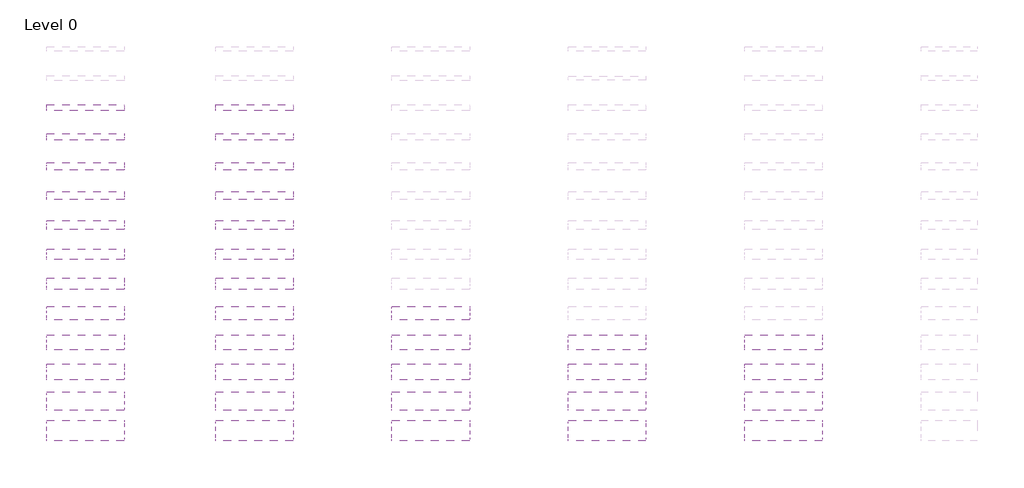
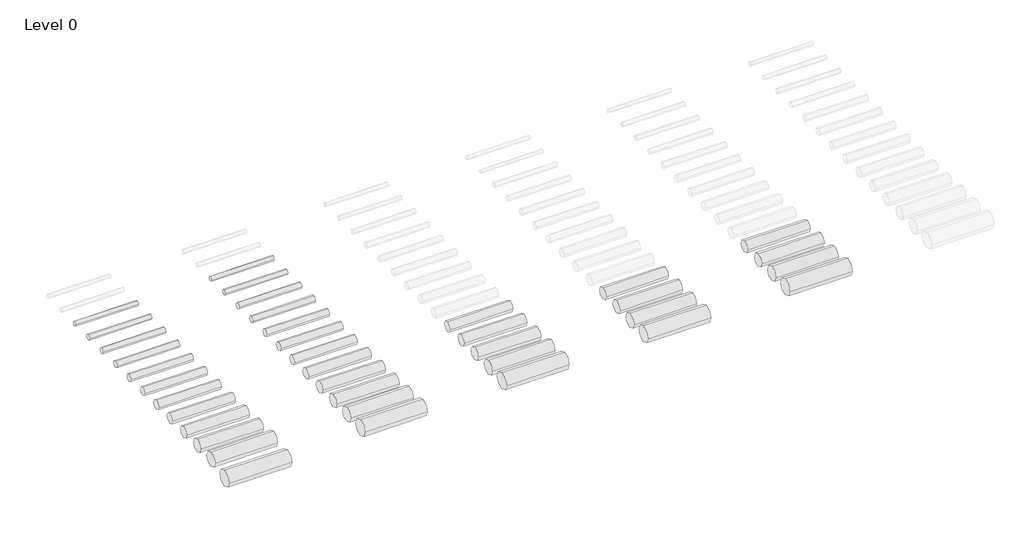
# One storey, part 1 of 4: 37 pipe segments.
"""IFC4 building model written with IfcOpenShell, lengths in millimetres."""

from ifc_helpers import new_model, si_unit, point, frame, frame_2d, origin, place, context, project, spatial, circle_curve, trimmed, segment, composite_curve, outline, extrude, element, save

model = new_model("IFC4")

# Units and contexts
model_context = context("Model", 3, world=origin())
ifc_project = project(units=[si_unit("LENGTHUNIT", "METRE", prefix="MILLI")], contexts=[model_context])

# Site, building, storey
site = spatial("IfcSite", under=ifc_project)
building = spatial("IfcBuilding", under=site)
storey = spatial("IfcBuildingStorey", under=building, Name="Level 0", Elevation=0.0)

# Pipe segments
placement = place(None, origin())
element("IfcPipeSegment", 1, ObjectType="Plumbing_Pipes_Pexgol_Cross-Linked-Polyethylene_Class-10", at=placement, inside=storey, context=model_context, shape_type="SweptSolid", body=[
    extrude(outline(composite_curve([segment(trimmed(circle_curve(frame_2d((-16091.7457436, 2750.0)), 100.0), [point((-16191.7457436, 2750.0))], [point((-16091.7457436, 2850.0))], False, "CARTESIAN"), True, "CONTINUOUS"), segment(trimmed(circle_curve(frame_2d((-16091.7457436, 2750.0)), 100.0), [point((-16091.7457436, 2850.0))], [point((-15991.7457436, 2750.0))], False, "CARTESIAN"), True, "CONTINUOUS"), segment(trimmed(circle_curve(frame_2d((-16091.7457436, 2750.0)), 100.0), [point((-15991.7457436, 2750.0))], [point((-16091.7457436, 2650.0))], False, "CARTESIAN"), True, "CONTINUOUS"), segment(trimmed(circle_curve(frame_2d((-16091.7457436, 2750.0)), 100.0), [point((-16091.7457436, 2650.0))], [point((-16191.7457436, 2750.0))], False, "CARTESIAN"), True, "CONTINUOUS")], self_intersect=False)), frame((5406.3346274, 0.0, 0.0), z_axis=(1.0, 0.0, 0.0), x_axis=(0.0, 1.0, 0.0)), (0.0, 0.0, 1.0), 2640.0),
])
element("IfcPipeSegment", 2, ObjectType="Plumbing_Pipes_Pexgol_Cross-Linked-Polyethylene_Class-10", at=placement, inside=storey, context=model_context, shape_type="SweptSolid", body=[
    extrude(outline(composite_curve([segment(trimmed(circle_curve(frame_2d((-17091.7457436, 2750.0)), 112.5), [point((-17204.2457436, 2750.0))], [point((-17091.7457436, 2862.5))], False, "CARTESIAN"), True, "CONTINUOUS"), segment(trimmed(circle_curve(frame_2d((-17091.7457436, 2750.0)), 112.5), [point((-17091.7457436, 2862.5))], [point((-16979.2457436, 2750.0))], False, "CARTESIAN"), True, "CONTINUOUS"), segment(trimmed(circle_curve(frame_2d((-17091.7457436, 2750.0)), 112.5), [point((-16979.2457436, 2750.0))], [point((-17091.7457436, 2637.5))], False, "CARTESIAN"), True, "CONTINUOUS"), segment(trimmed(circle_curve(frame_2d((-17091.7457436, 2750.0)), 112.5), [point((-17091.7457436, 2637.5))], [point((-17204.2457436, 2750.0))], False, "CARTESIAN"), True, "CONTINUOUS")], self_intersect=False)), frame((5406.3346274, 0.0, 0.0), z_axis=(1.0, 0.0, 0.0), x_axis=(0.0, 1.0, 0.0)), (0.0, 0.0, 1.0), 2640.0),
])
element("IfcPipeSegment", 3, ObjectType="Plumbing_Pipes_Pexgol_Cross-Linked-Polyethylene_Class-10", at=placement, inside=storey, context=model_context, shape_type="SweptSolid", body=[
    extrude(outline(composite_curve([segment(trimmed(circle_curve(frame_2d((-18091.7457436, 2750.0)), 125.0), [point((-18216.7457436, 2750.0))], [point((-18091.7457436, 2875.0))], False, "CARTESIAN"), True, "CONTINUOUS"), segment(trimmed(circle_curve(frame_2d((-18091.7457436, 2750.0)), 125.0), [point((-18091.7457436, 2875.0))], [point((-17966.7457436, 2750.0))], False, "CARTESIAN"), True, "CONTINUOUS"), segment(trimmed(circle_curve(frame_2d((-18091.7457436, 2750.0)), 125.0), [point((-17966.7457436, 2750.0))], [point((-18091.7457436, 2625.0))], False, "CARTESIAN"), True, "CONTINUOUS"), segment(trimmed(circle_curve(frame_2d((-18091.7457436, 2750.0)), 125.0), [point((-18091.7457436, 2625.0))], [point((-18216.7457436, 2750.0))], False, "CARTESIAN"), True, "CONTINUOUS")], self_intersect=False)), frame((5406.3346274, 0.0, 0.0), z_axis=(1.0, 0.0, 0.0), x_axis=(0.0, 1.0, 0.0)), (0.0, 0.0, 1.0), 2640.0),
])
element("IfcPipeSegment", 4, ObjectType="Plumbing_Pipes_Pexgol_Cross-Linked-Polyethylene_Class-10", at=placement, inside=storey, context=model_context, shape_type="SweptSolid", body=[
    extrude(outline(composite_curve([segment(trimmed(circle_curve(frame_2d((-19091.7457436, 2750.0)), 140.0), [point((-19231.7457436, 2750.0))], [point((-19091.7457436, 2890.0))], False, "CARTESIAN"), True, "CONTINUOUS"), segment(trimmed(circle_curve(frame_2d((-19091.7457436, 2750.0)), 140.0), [point((-19091.7457436, 2890.0))], [point((-18951.7457436, 2750.0))], False, "CARTESIAN"), True, "CONTINUOUS"), segment(trimmed(circle_curve(frame_2d((-19091.7457436, 2750.0)), 140.0), [point((-18951.7457436, 2750.0))], [point((-19091.7457436, 2610.0))], False, "CARTESIAN"), True, "CONTINUOUS"), segment(trimmed(circle_curve(frame_2d((-19091.7457436, 2750.0)), 140.0), [point((-19091.7457436, 2610.0))], [point((-19231.7457436, 2750.0))], False, "CARTESIAN"), True, "CONTINUOUS")], self_intersect=False)), frame((5406.3346274, 0.0, 0.0), z_axis=(1.0, 0.0, 0.0), x_axis=(0.0, 1.0, 0.0)), (0.0, 0.0, 1.0), 2640.0),
])
element("IfcPipeSegment", 5, ObjectType="Plumbing_Pipes_Pexgol_Cross-Linked-Polyethylene_Class-10", at=placement, inside=storey, context=model_context, shape_type="SweptSolid", body=[
    extrude(outline(composite_curve([segment(trimmed(circle_curve(frame_2d((-20091.7457436, 2750.0)), 157.5), [point((-20249.2457436, 2750.0))], [point((-20091.7457436, 2907.5))], False, "CARTESIAN"), True, "CONTINUOUS"), segment(trimmed(circle_curve(frame_2d((-20091.7457436, 2750.0)), 157.5), [point((-20091.7457436, 2907.5))], [point((-19934.2457436, 2750.0))], False, "CARTESIAN"), True, "CONTINUOUS"), segment(trimmed(circle_curve(frame_2d((-20091.7457436, 2750.0)), 157.5), [point((-19934.2457436, 2750.0))], [point((-20091.7457436, 2592.5))], False, "CARTESIAN"), True, "CONTINUOUS"), segment(trimmed(circle_curve(frame_2d((-20091.7457436, 2750.0)), 157.5), [point((-20091.7457436, 2592.5))], [point((-20249.2457436, 2750.0))], False, "CARTESIAN"), True, "CONTINUOUS")], self_intersect=False)), frame((5406.3346274, 0.0, 0.0), z_axis=(1.0, 0.0, 0.0), x_axis=(0.0, 1.0, 0.0)), (0.0, 0.0, 1.0), 2640.0),
])
element("IfcPipeSegment", 6, ObjectType="Plumbing_Pipes_Pexgol_Cross-Linked-Polyethylene_Class-10", at=placement, inside=storey, context=model_context, shape_type="SweptSolid", body=[
    extrude(outline(composite_curve([segment(trimmed(circle_curve(frame_2d((-21091.7457436, 2750.0)), 177.5), [point((-21269.2457436, 2750.0))], [point((-21091.7457436, 2927.5))], False, "CARTESIAN"), True, "CONTINUOUS"), segment(trimmed(circle_curve(frame_2d((-21091.7457436, 2750.0)), 177.5), [point((-21091.7457436, 2927.5))], [point((-20914.2457436, 2750.0))], False, "CARTESIAN"), True, "CONTINUOUS"), segment(trimmed(circle_curve(frame_2d((-21091.7457436, 2750.0)), 177.5), [point((-20914.2457436, 2750.0))], [point((-21091.7457436, 2572.5))], False, "CARTESIAN"), True, "CONTINUOUS"), segment(trimmed(circle_curve(frame_2d((-21091.7457436, 2750.0)), 177.5), [point((-21091.7457436, 2572.5))], [point((-21269.2457436, 2750.0))], False, "CARTESIAN"), True, "CONTINUOUS")], self_intersect=False)), frame((5406.3346274, 0.0, 0.0), z_axis=(1.0, 0.0, 0.0), x_axis=(0.0, 1.0, 0.0)), (0.0, 0.0, 1.0), 2640.0),
])
element("IfcPipeSegment", 7, ObjectType="Plumbing_Pipes_Pexgol_Cross-Linked-Polyethylene_Class-10", at=placement, inside=storey, context=model_context, shape_type="SweptSolid", body=[
    extrude(outline(composite_curve([segment(trimmed(circle_curve(frame_2d((-22091.7457436, 2750.0)), 200.0), [point((-22291.7457436, 2750.0))], [point((-22091.7457436, 2950.0))], False, "CARTESIAN"), True, "CONTINUOUS"), segment(trimmed(circle_curve(frame_2d((-22091.7457436, 2750.0)), 200.0), [point((-22091.7457436, 2950.0))], [point((-21891.7457436, 2750.0))], False, "CARTESIAN"), True, "CONTINUOUS"), segment(trimmed(circle_curve(frame_2d((-22091.7457436, 2750.0)), 200.0), [point((-21891.7457436, 2750.0))], [point((-22091.7457436, 2550.0))], False, "CARTESIAN"), True, "CONTINUOUS"), segment(trimmed(circle_curve(frame_2d((-22091.7457436, 2750.0)), 200.0), [point((-22091.7457436, 2550.0))], [point((-22291.7457436, 2750.0))], False, "CARTESIAN"), True, "CONTINUOUS")], self_intersect=False)), frame((5406.3346274, 0.0, 0.0), z_axis=(1.0, 0.0, 0.0), x_axis=(0.0, 1.0, 0.0)), (0.0, 0.0, 1.0), 2640.0),
])
element("IfcPipeSegment", 8, ObjectType="Plumbing_Pipes_Pexgol_Cross-Linked-Polyethylene_Class-10", at=placement, inside=storey, context=model_context, shape_type="SweptSolid", body=[
    extrude(outline(composite_curve([segment(trimmed(circle_curve(frame_2d((-23091.7457436, 2750.0)), 225.0), [point((-23316.7457436, 2750.0))], [point((-23091.7457436, 2975.0))], False, "CARTESIAN"), True, "CONTINUOUS"), segment(trimmed(circle_curve(frame_2d((-23091.7457436, 2750.0)), 225.0), [point((-23091.7457436, 2975.0))], [point((-22866.7457436, 2750.0))], False, "CARTESIAN"), True, "CONTINUOUS"), segment(trimmed(circle_curve(frame_2d((-23091.7457436, 2750.0)), 225.0), [point((-22866.7457436, 2750.0))], [point((-23091.7457436, 2525.0))], False, "CARTESIAN"), True, "CONTINUOUS"), segment(trimmed(circle_curve(frame_2d((-23091.7457436, 2750.0)), 225.0), [point((-23091.7457436, 2525.0))], [point((-23316.7457436, 2750.0))], False, "CARTESIAN"), True, "CONTINUOUS")], self_intersect=False)), frame((5406.3346274, 0.0, 0.0), z_axis=(1.0, 0.0, 0.0), x_axis=(0.0, 1.0, 0.0)), (0.0, 0.0, 1.0), 2640.0),
])
element("IfcPipeSegment", 9, ObjectType="Plumbing_Pipes_Pexgol_Cross-Linked-Polyethylene_Class-10", at=placement, inside=storey, context=model_context, shape_type="SweptSolid", body=[
    extrude(outline(composite_curve([segment(trimmed(circle_curve(frame_2d((-24091.7457436, 2750.0)), 250.0), [point((-24341.7457436, 2750.0))], [point((-24091.7457436, 3000.0))], False, "CARTESIAN"), True, "CONTINUOUS"), segment(trimmed(circle_curve(frame_2d((-24091.7457436, 2750.0)), 250.0), [point((-24091.7457436, 3000.0))], [point((-23841.7457436, 2750.0))], False, "CARTESIAN"), True, "CONTINUOUS"), segment(trimmed(circle_curve(frame_2d((-24091.7457436, 2750.0)), 250.0), [point((-23841.7457436, 2750.0))], [point((-24091.7457436, 2500.0))], False, "CARTESIAN"), True, "CONTINUOUS"), segment(trimmed(circle_curve(frame_2d((-24091.7457436, 2750.0)), 250.0), [point((-24091.7457436, 2500.0))], [point((-24341.7457436, 2750.0))], False, "CARTESIAN"), True, "CONTINUOUS")], self_intersect=False)), frame((5406.3346274, 0.0, 0.0), z_axis=(1.0, 0.0, 0.0), x_axis=(0.0, 1.0, 0.0)), (0.0, 0.0, 1.0), 2640.0),
])
element("IfcPipeSegment", 10, ObjectType="Plumbing_Pipes_Pexgol_Cross-Linked-Polyethylene_Class-10", at=placement, inside=storey, context=model_context, shape_type="SweptSolid", body=[
    extrude(outline(composite_curve([segment(trimmed(circle_curve(frame_2d((-25091.7457436, 2750.0)), 280.0), [point((-25371.7457436, 2750.0))], [point((-25091.7457436, 3030.0))], False, "CARTESIAN"), True, "CONTINUOUS"), segment(trimmed(circle_curve(frame_2d((-25091.7457436, 2750.0)), 280.0), [point((-25091.7457436, 3030.0))], [point((-24811.7457436, 2750.0))], False, "CARTESIAN"), True, "CONTINUOUS"), segment(trimmed(circle_curve(frame_2d((-25091.7457436, 2750.0)), 280.0), [point((-24811.7457436, 2750.0))], [point((-25091.7457436, 2470.0))], False, "CARTESIAN"), True, "CONTINUOUS"), segment(trimmed(circle_curve(frame_2d((-25091.7457436, 2750.0)), 280.0), [point((-25091.7457436, 2470.0))], [point((-25371.7457436, 2750.0))], False, "CARTESIAN"), True, "CONTINUOUS")], self_intersect=False)), frame((5406.3346274, 0.0, 0.0), z_axis=(1.0, 0.0, 0.0), x_axis=(0.0, 1.0, 0.0)), (0.0, 0.0, 1.0), 2640.0),
])
element("IfcPipeSegment", 11, ObjectType="Plumbing_Pipes_Pexgol_Cross-Linked-Polyethylene_Class-10", at=placement, inside=storey, context=model_context, shape_type="SweptSolid", body=[
    extrude(outline(composite_curve([segment(trimmed(circle_curve(frame_2d((-26091.7457436, 2750.0)), 315.0), [point((-26406.7457436, 2750.0))], [point((-26091.7457436, 3065.0))], False, "CARTESIAN"), True, "CONTINUOUS"), segment(trimmed(circle_curve(frame_2d((-26091.7457436, 2750.0)), 315.0), [point((-26091.7457436, 3065.0))], [point((-25776.7457436, 2750.0))], False, "CARTESIAN"), True, "CONTINUOUS"), segment(trimmed(circle_curve(frame_2d((-26091.7457436, 2750.0)), 315.0), [point((-25776.7457436, 2750.0))], [point((-26091.7457436, 2435.0))], False, "CARTESIAN"), True, "CONTINUOUS"), segment(trimmed(circle_curve(frame_2d((-26091.7457436, 2750.0)), 315.0), [point((-26091.7457436, 2435.0))], [point((-26406.7457436, 2750.0))], False, "CARTESIAN"), True, "CONTINUOUS")], self_intersect=False)), frame((5406.3346274, 0.0, 0.0), z_axis=(1.0, 0.0, 0.0), x_axis=(0.0, 1.0, 0.0)), (0.0, 0.0, 1.0), 2640.0),
])
element("IfcPipeSegment", 12, ObjectType="Plumbing_Pipes_Pexgol_Cross-Linked-Polyethylene_Class-10", at=placement, inside=storey, context=model_context, shape_type="SweptSolid", body=[
    extrude(outline(composite_curve([segment(trimmed(circle_curve(frame_2d((-27091.7457436, 2498.2929828)), 355.0), [point((-27446.7457436, 2498.2929828))], [point((-27091.7457436, 2853.2929828))], False, "CARTESIAN"), True, "CONTINUOUS"), segment(trimmed(circle_curve(frame_2d((-27091.7457436, 2498.2929828)), 355.0), [point((-27091.7457436, 2853.2929828))], [point((-26736.7457436, 2498.2929828))], False, "CARTESIAN"), True, "CONTINUOUS"), segment(trimmed(circle_curve(frame_2d((-27091.7457436, 2498.2929828)), 355.0), [point((-26736.7457436, 2498.2929828))], [point((-27091.7457436, 2143.2929828))], False, "CARTESIAN"), True, "CONTINUOUS"), segment(trimmed(circle_curve(frame_2d((-27091.7457436, 2498.2929828)), 355.0), [point((-27091.7457436, 2143.2929828))], [point((-27446.7457436, 2498.2929828))], False, "CARTESIAN"), True, "CONTINUOUS")], self_intersect=False)), frame((5406.3346274, 0.0, 0.0), z_axis=(1.0, 0.0, 0.0), x_axis=(0.0, 1.0, 0.0)), (0.0, 0.0, 1.0), 2640.0),
])
element("IfcPipeSegment", 13, ObjectType="Plumbing_Pipes_Pexgol_Cross-Linked-Polyethylene_Class-12", at=placement, inside=storey, context=model_context, shape_type="SweptSolid", body=[
    extrude(outline(composite_curve([segment(trimmed(circle_curve(frame_2d((-16091.7457436, 2750.0)), 100.0), [point((-16191.7457436, 2750.0))], [point((-16091.7457436, 2850.0))], False, "CARTESIAN"), True, "CONTINUOUS"), segment(trimmed(circle_curve(frame_2d((-16091.7457436, 2750.0)), 100.0), [point((-16091.7457436, 2850.0))], [point((-15991.7457436, 2750.0))], False, "CARTESIAN"), True, "CONTINUOUS"), segment(trimmed(circle_curve(frame_2d((-16091.7457436, 2750.0)), 100.0), [point((-15991.7457436, 2750.0))], [point((-16091.7457436, 2650.0))], False, "CARTESIAN"), True, "CONTINUOUS"), segment(trimmed(circle_curve(frame_2d((-16091.7457436, 2750.0)), 100.0), [point((-16091.7457436, 2650.0))], [point((-16191.7457436, 2750.0))], False, "CARTESIAN"), True, "CONTINUOUS")], self_intersect=False)), frame((11158.0416447, 0.0, 0.0), z_axis=(1.0, 0.0, 0.0), x_axis=(0.0, 1.0, 0.0)), (0.0, 0.0, 1.0), 2640.0),
])
element("IfcPipeSegment", 14, ObjectType="Plumbing_Pipes_Pexgol_Cross-Linked-Polyethylene_Class-12", at=placement, inside=storey, context=model_context, shape_type="SweptSolid", body=[
    extrude(outline(composite_curve([segment(trimmed(circle_curve(frame_2d((-17091.7457436, 2750.0)), 112.5), [point((-17204.2457436, 2750.0))], [point((-17091.7457436, 2862.5))], False, "CARTESIAN"), True, "CONTINUOUS"), segment(trimmed(circle_curve(frame_2d((-17091.7457436, 2750.0)), 112.5), [point((-17091.7457436, 2862.5))], [point((-16979.2457436, 2750.0))], False, "CARTESIAN"), True, "CONTINUOUS"), segment(trimmed(circle_curve(frame_2d((-17091.7457436, 2750.0)), 112.5), [point((-16979.2457436, 2750.0))], [point((-17091.7457436, 2637.5))], False, "CARTESIAN"), True, "CONTINUOUS"), segment(trimmed(circle_curve(frame_2d((-17091.7457436, 2750.0)), 112.5), [point((-17091.7457436, 2637.5))], [point((-17204.2457436, 2750.0))], False, "CARTESIAN"), True, "CONTINUOUS")], self_intersect=False)), frame((11158.0416447, 0.0, 0.0), z_axis=(1.0, 0.0, 0.0), x_axis=(0.0, 1.0, 0.0)), (0.0, 0.0, 1.0), 2640.0),
])
element("IfcPipeSegment", 15, ObjectType="Plumbing_Pipes_Pexgol_Cross-Linked-Polyethylene_Class-12", at=placement, inside=storey, context=model_context, shape_type="SweptSolid", body=[
    extrude(outline(composite_curve([segment(trimmed(circle_curve(frame_2d((-18091.7457436, 2750.0)), 125.0), [point((-18216.7457436, 2750.0))], [point((-18091.7457436, 2875.0))], False, "CARTESIAN"), True, "CONTINUOUS"), segment(trimmed(circle_curve(frame_2d((-18091.7457436, 2750.0)), 125.0), [point((-18091.7457436, 2875.0))], [point((-17966.7457436, 2750.0))], False, "CARTESIAN"), True, "CONTINUOUS"), segment(trimmed(circle_curve(frame_2d((-18091.7457436, 2750.0)), 125.0), [point((-17966.7457436, 2750.0))], [point((-18091.7457436, 2625.0))], False, "CARTESIAN"), True, "CONTINUOUS"), segment(trimmed(circle_curve(frame_2d((-18091.7457436, 2750.0)), 125.0), [point((-18091.7457436, 2625.0))], [point((-18216.7457436, 2750.0))], False, "CARTESIAN"), True, "CONTINUOUS")], self_intersect=False)), frame((11158.0416447, 0.0, 0.0), z_axis=(1.0, 0.0, 0.0), x_axis=(0.0, 1.0, 0.0)), (0.0, 0.0, 1.0), 2640.0),
])
element("IfcPipeSegment", 16, ObjectType="Plumbing_Pipes_Pexgol_Cross-Linked-Polyethylene_Class-12", at=placement, inside=storey, context=model_context, shape_type="SweptSolid", body=[
    extrude(outline(composite_curve([segment(trimmed(circle_curve(frame_2d((-19091.7457436, 2750.0)), 140.0), [point((-19231.7457436, 2750.0))], [point((-19091.7457436, 2890.0))], False, "CARTESIAN"), True, "CONTINUOUS"), segment(trimmed(circle_curve(frame_2d((-19091.7457436, 2750.0)), 140.0), [point((-19091.7457436, 2890.0))], [point((-18951.7457436, 2750.0))], False, "CARTESIAN"), True, "CONTINUOUS"), segment(trimmed(circle_curve(frame_2d((-19091.7457436, 2750.0)), 140.0), [point((-18951.7457436, 2750.0))], [point((-19091.7457436, 2610.0))], False, "CARTESIAN"), True, "CONTINUOUS"), segment(trimmed(circle_curve(frame_2d((-19091.7457436, 2750.0)), 140.0), [point((-19091.7457436, 2610.0))], [point((-19231.7457436, 2750.0))], False, "CARTESIAN"), True, "CONTINUOUS")], self_intersect=False)), frame((11158.0416447, 0.0, 0.0), z_axis=(1.0, 0.0, 0.0), x_axis=(0.0, 1.0, 0.0)), (0.0, 0.0, 1.0), 2640.0),
])
element("IfcPipeSegment", 17, ObjectType="Plumbing_Pipes_Pexgol_Cross-Linked-Polyethylene_Class-12", at=placement, inside=storey, context=model_context, shape_type="SweptSolid", body=[
    extrude(outline(composite_curve([segment(trimmed(circle_curve(frame_2d((-20091.7457436, 2750.0)), 157.5), [point((-20249.2457436, 2750.0))], [point((-20091.7457436, 2907.5))], False, "CARTESIAN"), True, "CONTINUOUS"), segment(trimmed(circle_curve(frame_2d((-20091.7457436, 2750.0)), 157.5), [point((-20091.7457436, 2907.5))], [point((-19934.2457436, 2750.0))], False, "CARTESIAN"), True, "CONTINUOUS"), segment(trimmed(circle_curve(frame_2d((-20091.7457436, 2750.0)), 157.5), [point((-19934.2457436, 2750.0))], [point((-20091.7457436, 2592.5))], False, "CARTESIAN"), True, "CONTINUOUS"), segment(trimmed(circle_curve(frame_2d((-20091.7457436, 2750.0)), 157.5), [point((-20091.7457436, 2592.5))], [point((-20249.2457436, 2750.0))], False, "CARTESIAN"), True, "CONTINUOUS")], self_intersect=False)), frame((11158.0416447, 0.0, 0.0), z_axis=(1.0, 0.0, 0.0), x_axis=(0.0, 1.0, 0.0)), (0.0, 0.0, 1.0), 2640.0),
])
element("IfcPipeSegment", 18, ObjectType="Plumbing_Pipes_Pexgol_Cross-Linked-Polyethylene_Class-12", at=placement, inside=storey, context=model_context, shape_type="SweptSolid", body=[
    extrude(outline(composite_curve([segment(trimmed(circle_curve(frame_2d((-21091.7457436, 2750.0)), 177.5), [point((-21269.2457436, 2750.0))], [point((-21091.7457436, 2927.5))], False, "CARTESIAN"), True, "CONTINUOUS"), segment(trimmed(circle_curve(frame_2d((-21091.7457436, 2750.0)), 177.5), [point((-21091.7457436, 2927.5))], [point((-20914.2457436, 2750.0))], False, "CARTESIAN"), True, "CONTINUOUS"), segment(trimmed(circle_curve(frame_2d((-21091.7457436, 2750.0)), 177.5), [point((-20914.2457436, 2750.0))], [point((-21091.7457436, 2572.5))], False, "CARTESIAN"), True, "CONTINUOUS"), segment(trimmed(circle_curve(frame_2d((-21091.7457436, 2750.0)), 177.5), [point((-21091.7457436, 2572.5))], [point((-21269.2457436, 2750.0))], False, "CARTESIAN"), True, "CONTINUOUS")], self_intersect=False)), frame((11158.0416447, 0.0, 0.0), z_axis=(1.0, 0.0, 0.0), x_axis=(0.0, 1.0, 0.0)), (0.0, 0.0, 1.0), 2640.0),
])
element("IfcPipeSegment", 19, ObjectType="Plumbing_Pipes_Pexgol_Cross-Linked-Polyethylene_Class-12", at=placement, inside=storey, context=model_context, shape_type="SweptSolid", body=[
    extrude(outline(composite_curve([segment(trimmed(circle_curve(frame_2d((-22091.7457436, 2750.0)), 200.0), [point((-22291.7457436, 2750.0))], [point((-22091.7457436, 2950.0))], False, "CARTESIAN"), True, "CONTINUOUS"), segment(trimmed(circle_curve(frame_2d((-22091.7457436, 2750.0)), 200.0), [point((-22091.7457436, 2950.0))], [point((-21891.7457436, 2750.0))], False, "CARTESIAN"), True, "CONTINUOUS"), segment(trimmed(circle_curve(frame_2d((-22091.7457436, 2750.0)), 200.0), [point((-21891.7457436, 2750.0))], [point((-22091.7457436, 2550.0))], False, "CARTESIAN"), True, "CONTINUOUS"), segment(trimmed(circle_curve(frame_2d((-22091.7457436, 2750.0)), 200.0), [point((-22091.7457436, 2550.0))], [point((-22291.7457436, 2750.0))], False, "CARTESIAN"), True, "CONTINUOUS")], self_intersect=False)), frame((11158.0416447, 0.0, 0.0), z_axis=(1.0, 0.0, 0.0), x_axis=(0.0, 1.0, 0.0)), (0.0, 0.0, 1.0), 2640.0),
])
element("IfcPipeSegment", 20, ObjectType="Plumbing_Pipes_Pexgol_Cross-Linked-Polyethylene_Class-12", at=placement, inside=storey, context=model_context, shape_type="SweptSolid", body=[
    extrude(outline(composite_curve([segment(trimmed(circle_curve(frame_2d((-23091.7457436, 2750.0)), 225.0), [point((-23316.7457436, 2750.0))], [point((-23091.7457436, 2975.0))], False, "CARTESIAN"), True, "CONTINUOUS"), segment(trimmed(circle_curve(frame_2d((-23091.7457436, 2750.0)), 225.0), [point((-23091.7457436, 2975.0))], [point((-22866.7457436, 2750.0))], False, "CARTESIAN"), True, "CONTINUOUS"), segment(trimmed(circle_curve(frame_2d((-23091.7457436, 2750.0)), 225.0), [point((-22866.7457436, 2750.0))], [point((-23091.7457436, 2525.0))], False, "CARTESIAN"), True, "CONTINUOUS"), segment(trimmed(circle_curve(frame_2d((-23091.7457436, 2750.0)), 225.0), [point((-23091.7457436, 2525.0))], [point((-23316.7457436, 2750.0))], False, "CARTESIAN"), True, "CONTINUOUS")], self_intersect=False)), frame((11158.0416447, 0.0, 0.0), z_axis=(1.0, 0.0, 0.0), x_axis=(0.0, 1.0, 0.0)), (0.0, 0.0, 1.0), 2640.0),
])
element("IfcPipeSegment", 21, ObjectType="Plumbing_Pipes_Pexgol_Cross-Linked-Polyethylene_Class-12", at=placement, inside=storey, context=model_context, shape_type="SweptSolid", body=[
    extrude(outline(composite_curve([segment(trimmed(circle_curve(frame_2d((-24091.7457436, 2750.0)), 250.0), [point((-24341.7457436, 2750.0))], [point((-24091.7457436, 3000.0))], False, "CARTESIAN"), True, "CONTINUOUS"), segment(trimmed(circle_curve(frame_2d((-24091.7457436, 2750.0)), 250.0), [point((-24091.7457436, 3000.0))], [point((-23841.7457436, 2750.0))], False, "CARTESIAN"), True, "CONTINUOUS"), segment(trimmed(circle_curve(frame_2d((-24091.7457436, 2750.0)), 250.0), [point((-23841.7457436, 2750.0))], [point((-24091.7457436, 2500.0))], False, "CARTESIAN"), True, "CONTINUOUS"), segment(trimmed(circle_curve(frame_2d((-24091.7457436, 2750.0)), 250.0), [point((-24091.7457436, 2500.0))], [point((-24341.7457436, 2750.0))], False, "CARTESIAN"), True, "CONTINUOUS")], self_intersect=False)), frame((11158.0416447, 0.0, 0.0), z_axis=(1.0, 0.0, 0.0), x_axis=(0.0, 1.0, 0.0)), (0.0, 0.0, 1.0), 2640.0),
])
element("IfcPipeSegment", 22, ObjectType="Plumbing_Pipes_Pexgol_Cross-Linked-Polyethylene_Class-12", at=placement, inside=storey, context=model_context, shape_type="SweptSolid", body=[
    extrude(outline(composite_curve([segment(trimmed(circle_curve(frame_2d((-25091.7457436, 2750.0)), 280.0), [point((-25371.7457436, 2750.0))], [point((-25091.7457436, 3030.0))], False, "CARTESIAN"), True, "CONTINUOUS"), segment(trimmed(circle_curve(frame_2d((-25091.7457436, 2750.0)), 280.0), [point((-25091.7457436, 3030.0))], [point((-24811.7457436, 2750.0))], False, "CARTESIAN"), True, "CONTINUOUS"), segment(trimmed(circle_curve(frame_2d((-25091.7457436, 2750.0)), 280.0), [point((-24811.7457436, 2750.0))], [point((-25091.7457436, 2470.0))], False, "CARTESIAN"), True, "CONTINUOUS"), segment(trimmed(circle_curve(frame_2d((-25091.7457436, 2750.0)), 280.0), [point((-25091.7457436, 2470.0))], [point((-25371.7457436, 2750.0))], False, "CARTESIAN"), True, "CONTINUOUS")], self_intersect=False)), frame((11158.0416447, 0.0, 0.0), z_axis=(1.0, 0.0, 0.0), x_axis=(0.0, 1.0, 0.0)), (0.0, 0.0, 1.0), 2640.0),
])
element("IfcPipeSegment", 23, ObjectType="Plumbing_Pipes_Pexgol_Cross-Linked-Polyethylene_Class-12", at=placement, inside=storey, context=model_context, shape_type="SweptSolid", body=[
    extrude(outline(composite_curve([segment(trimmed(circle_curve(frame_2d((-26091.7457436, 2750.0)), 315.0), [point((-26406.7457436, 2750.0))], [point((-26091.7457436, 3065.0))], False, "CARTESIAN"), True, "CONTINUOUS"), segment(trimmed(circle_curve(frame_2d((-26091.7457436, 2750.0)), 315.0), [point((-26091.7457436, 3065.0))], [point((-25776.7457436, 2750.0))], False, "CARTESIAN"), True, "CONTINUOUS"), segment(trimmed(circle_curve(frame_2d((-26091.7457436, 2750.0)), 315.0), [point((-25776.7457436, 2750.0))], [point((-26091.7457436, 2435.0))], False, "CARTESIAN"), True, "CONTINUOUS"), segment(trimmed(circle_curve(frame_2d((-26091.7457436, 2750.0)), 315.0), [point((-26091.7457436, 2435.0))], [point((-26406.7457436, 2750.0))], False, "CARTESIAN"), True, "CONTINUOUS")], self_intersect=False)), frame((11158.0416447, 0.0, 0.0), z_axis=(1.0, 0.0, 0.0), x_axis=(0.0, 1.0, 0.0)), (0.0, 0.0, 1.0), 2640.0),
])
element("IfcPipeSegment", 24, ObjectType="Plumbing_Pipes_Pexgol_Cross-Linked-Polyethylene_Class-12", at=placement, inside=storey, context=model_context, shape_type="SweptSolid", body=[
    extrude(outline(composite_curve([segment(trimmed(circle_curve(frame_2d((-27091.7457436, 2750.0)), 355.0), [point((-27446.7457436, 2750.0))], [point((-27091.7457436, 3105.0))], False, "CARTESIAN"), True, "CONTINUOUS"), segment(trimmed(circle_curve(frame_2d((-27091.7457436, 2750.0)), 355.0), [point((-27091.7457436, 3105.0))], [point((-26736.7457436, 2750.0))], False, "CARTESIAN"), True, "CONTINUOUS"), segment(trimmed(circle_curve(frame_2d((-27091.7457436, 2750.0)), 355.0), [point((-26736.7457436, 2750.0))], [point((-27091.7457436, 2395.0))], False, "CARTESIAN"), True, "CONTINUOUS"), segment(trimmed(circle_curve(frame_2d((-27091.7457436, 2750.0)), 355.0), [point((-27091.7457436, 2395.0))], [point((-27446.7457436, 2750.0))], False, "CARTESIAN"), True, "CONTINUOUS")], self_intersect=False)), frame((11158.0416447, 0.0, 0.0), z_axis=(1.0, 0.0, 0.0), x_axis=(0.0, 1.0, 0.0)), (0.0, 0.0, 1.0), 2640.0),
])
element("IfcPipeSegment", 25, ObjectType="Plumbing_Pipes_Pexgol_Cross-Linked-Polyethylene_Class-15", at=placement, inside=storey, context=model_context, shape_type="SweptSolid", body=[
    extrude(outline(composite_curve([segment(trimmed(circle_curve(frame_2d((-23091.7457436, 2750.0)), 225.0), [point((-23316.7457436, 2750.0))], [point((-23091.7457436, 2975.0))], False, "CARTESIAN"), True, "CONTINUOUS"), segment(trimmed(circle_curve(frame_2d((-23091.7457436, 2750.0)), 225.0), [point((-23091.7457436, 2975.0))], [point((-22866.7457436, 2750.0))], False, "CARTESIAN"), True, "CONTINUOUS"), segment(trimmed(circle_curve(frame_2d((-23091.7457436, 2750.0)), 225.0), [point((-22866.7457436, 2750.0))], [point((-23091.7457436, 2525.0))], False, "CARTESIAN"), True, "CONTINUOUS"), segment(trimmed(circle_curve(frame_2d((-23091.7457436, 2750.0)), 225.0), [point((-23091.7457436, 2525.0))], [point((-23316.7457436, 2750.0))], False, "CARTESIAN"), True, "CONTINUOUS")], self_intersect=False)), frame((17158.0416447, 0.0, 0.0), z_axis=(1.0, 0.0, 0.0), x_axis=(0.0, 1.0, 0.0)), (0.0, 0.0, 1.0), 2640.0),
])
element("IfcPipeSegment", 26, ObjectType="Plumbing_Pipes_Pexgol_Cross-Linked-Polyethylene_Class-15", at=placement, inside=storey, context=model_context, shape_type="SweptSolid", body=[
    extrude(outline(composite_curve([segment(trimmed(circle_curve(frame_2d((-24091.7457436, 2750.0)), 250.0), [point((-24341.7457436, 2750.0))], [point((-24091.7457436, 3000.0))], False, "CARTESIAN"), True, "CONTINUOUS"), segment(trimmed(circle_curve(frame_2d((-24091.7457436, 2750.0)), 250.0), [point((-24091.7457436, 3000.0))], [point((-23841.7457436, 2750.0))], False, "CARTESIAN"), True, "CONTINUOUS"), segment(trimmed(circle_curve(frame_2d((-24091.7457436, 2750.0)), 250.0), [point((-23841.7457436, 2750.0))], [point((-24091.7457436, 2500.0))], False, "CARTESIAN"), True, "CONTINUOUS"), segment(trimmed(circle_curve(frame_2d((-24091.7457436, 2750.0)), 250.0), [point((-24091.7457436, 2500.0))], [point((-24341.7457436, 2750.0))], False, "CARTESIAN"), True, "CONTINUOUS")], self_intersect=False)), frame((17158.0416447, 0.0, 0.0), z_axis=(1.0, 0.0, 0.0), x_axis=(0.0, 1.0, 0.0)), (0.0, 0.0, 1.0), 2640.0),
])
element("IfcPipeSegment", 27, ObjectType="Plumbing_Pipes_Pexgol_Cross-Linked-Polyethylene_Class-15", at=placement, inside=storey, context=model_context, shape_type="SweptSolid", body=[
    extrude(outline(composite_curve([segment(trimmed(circle_curve(frame_2d((-25091.7457436, 2750.0)), 280.0), [point((-25371.7457436, 2750.0))], [point((-25091.7457436, 3030.0))], False, "CARTESIAN"), True, "CONTINUOUS"), segment(trimmed(circle_curve(frame_2d((-25091.7457436, 2750.0)), 280.0), [point((-25091.7457436, 3030.0))], [point((-24811.7457436, 2750.0))], False, "CARTESIAN"), True, "CONTINUOUS"), segment(trimmed(circle_curve(frame_2d((-25091.7457436, 2750.0)), 280.0), [point((-24811.7457436, 2750.0))], [point((-25091.7457436, 2470.0))], False, "CARTESIAN"), True, "CONTINUOUS"), segment(trimmed(circle_curve(frame_2d((-25091.7457436, 2750.0)), 280.0), [point((-25091.7457436, 2470.0))], [point((-25371.7457436, 2750.0))], False, "CARTESIAN"), True, "CONTINUOUS")], self_intersect=False)), frame((17158.0416447, 0.0, 0.0), z_axis=(1.0, 0.0, 0.0), x_axis=(0.0, 1.0, 0.0)), (0.0, 0.0, 1.0), 2640.0),
])
element("IfcPipeSegment", 28, ObjectType="Plumbing_Pipes_Pexgol_Cross-Linked-Polyethylene_Class-15", at=placement, inside=storey, context=model_context, shape_type="SweptSolid", body=[
    extrude(outline(composite_curve([segment(trimmed(circle_curve(frame_2d((-26091.7457436, 2750.0)), 315.0), [point((-26406.7457436, 2750.0))], [point((-26091.7457436, 3065.0))], False, "CARTESIAN"), True, "CONTINUOUS"), segment(trimmed(circle_curve(frame_2d((-26091.7457436, 2750.0)), 315.0), [point((-26091.7457436, 3065.0))], [point((-25776.7457436, 2750.0))], False, "CARTESIAN"), True, "CONTINUOUS"), segment(trimmed(circle_curve(frame_2d((-26091.7457436, 2750.0)), 315.0), [point((-25776.7457436, 2750.0))], [point((-26091.7457436, 2435.0))], False, "CARTESIAN"), True, "CONTINUOUS"), segment(trimmed(circle_curve(frame_2d((-26091.7457436, 2750.0)), 315.0), [point((-26091.7457436, 2435.0))], [point((-26406.7457436, 2750.0))], False, "CARTESIAN"), True, "CONTINUOUS")], self_intersect=False)), frame((17158.0416447, 0.0, 0.0), z_axis=(1.0, 0.0, 0.0), x_axis=(0.0, 1.0, 0.0)), (0.0, 0.0, 1.0), 2640.0),
])
element("IfcPipeSegment", 29, ObjectType="Plumbing_Pipes_Pexgol_Cross-Linked-Polyethylene_Class-15", at=placement, inside=storey, context=model_context, shape_type="SweptSolid", body=[
    extrude(outline(composite_curve([segment(trimmed(circle_curve(frame_2d((-27091.7457436, 2750.0)), 355.0), [point((-27446.7457436, 2750.0))], [point((-27091.7457436, 3105.0))], False, "CARTESIAN"), True, "CONTINUOUS"), segment(trimmed(circle_curve(frame_2d((-27091.7457436, 2750.0)), 355.0), [point((-27091.7457436, 3105.0))], [point((-26736.7457436, 2750.0))], False, "CARTESIAN"), True, "CONTINUOUS"), segment(trimmed(circle_curve(frame_2d((-27091.7457436, 2750.0)), 355.0), [point((-26736.7457436, 2750.0))], [point((-27091.7457436, 2395.0))], False, "CARTESIAN"), True, "CONTINUOUS"), segment(trimmed(circle_curve(frame_2d((-27091.7457436, 2750.0)), 355.0), [point((-27091.7457436, 2395.0))], [point((-27446.7457436, 2750.0))], False, "CARTESIAN"), True, "CONTINUOUS")], self_intersect=False)), frame((17158.0416447, 0.0, 0.0), z_axis=(1.0, 0.0, 0.0), x_axis=(0.0, 1.0, 0.0)), (0.0, 0.0, 1.0), 2640.0),
])
element("IfcPipeSegment", 30, ObjectType="Plumbing_Pipes_Pexgol_Cross-Linked-Polyethylene_Class-19", at=placement, inside=storey, context=model_context, shape_type="SweptSolid", body=[
    extrude(outline(composite_curve([segment(trimmed(circle_curve(frame_2d((-24091.7457436, 2750.0)), 250.0), [point((-24341.7457436, 2750.0))], [point((-24091.7457436, 3000.0))], False, "CARTESIAN"), True, "CONTINUOUS"), segment(trimmed(circle_curve(frame_2d((-24091.7457436, 2750.0)), 250.0), [point((-24091.7457436, 3000.0))], [point((-23841.7457436, 2750.0))], False, "CARTESIAN"), True, "CONTINUOUS"), segment(trimmed(circle_curve(frame_2d((-24091.7457436, 2750.0)), 250.0), [point((-23841.7457436, 2750.0))], [point((-24091.7457436, 2500.0))], False, "CARTESIAN"), True, "CONTINUOUS"), segment(trimmed(circle_curve(frame_2d((-24091.7457436, 2750.0)), 250.0), [point((-24091.7457436, 2500.0))], [point((-24341.7457436, 2750.0))], False, "CARTESIAN"), True, "CONTINUOUS")], self_intersect=False)), frame((23158.0416447, 0.0, 0.0), z_axis=(1.0, 0.0, 0.0), x_axis=(0.0, 1.0, 0.0)), (0.0, 0.0, 1.0), 2640.0),
])
element("IfcPipeSegment", 31, ObjectType="Plumbing_Pipes_Pexgol_Cross-Linked-Polyethylene_Class-19", at=placement, inside=storey, context=model_context, shape_type="SweptSolid", body=[
    extrude(outline(composite_curve([segment(trimmed(circle_curve(frame_2d((-25091.7457436, 2750.0)), 280.0), [point((-25371.7457436, 2750.0))], [point((-25091.7457436, 3030.0))], False, "CARTESIAN"), True, "CONTINUOUS"), segment(trimmed(circle_curve(frame_2d((-25091.7457436, 2750.0)), 280.0), [point((-25091.7457436, 3030.0))], [point((-24811.7457436, 2750.0))], False, "CARTESIAN"), True, "CONTINUOUS"), segment(trimmed(circle_curve(frame_2d((-25091.7457436, 2750.0)), 280.0), [point((-24811.7457436, 2750.0))], [point((-25091.7457436, 2470.0))], False, "CARTESIAN"), True, "CONTINUOUS"), segment(trimmed(circle_curve(frame_2d((-25091.7457436, 2750.0)), 280.0), [point((-25091.7457436, 2470.0))], [point((-25371.7457436, 2750.0))], False, "CARTESIAN"), True, "CONTINUOUS")], self_intersect=False)), frame((23158.0416447, 0.0, 0.0), z_axis=(1.0, 0.0, 0.0), x_axis=(0.0, 1.0, 0.0)), (0.0, 0.0, 1.0), 2640.0),
])
element("IfcPipeSegment", 32, ObjectType="Plumbing_Pipes_Pexgol_Cross-Linked-Polyethylene_Class-19", at=placement, inside=storey, context=model_context, shape_type="SweptSolid", body=[
    extrude(outline(composite_curve([segment(trimmed(circle_curve(frame_2d((-26091.7457436, 2750.0)), 315.0), [point((-26406.7457436, 2750.0))], [point((-26091.7457436, 3065.0))], False, "CARTESIAN"), True, "CONTINUOUS"), segment(trimmed(circle_curve(frame_2d((-26091.7457436, 2750.0)), 315.0), [point((-26091.7457436, 3065.0))], [point((-25776.7457436, 2750.0))], False, "CARTESIAN"), True, "CONTINUOUS"), segment(trimmed(circle_curve(frame_2d((-26091.7457436, 2750.0)), 315.0), [point((-25776.7457436, 2750.0))], [point((-26091.7457436, 2435.0))], False, "CARTESIAN"), True, "CONTINUOUS"), segment(trimmed(circle_curve(frame_2d((-26091.7457436, 2750.0)), 315.0), [point((-26091.7457436, 2435.0))], [point((-26406.7457436, 2750.0))], False, "CARTESIAN"), True, "CONTINUOUS")], self_intersect=False)), frame((23158.0416447, 0.0, 0.0), z_axis=(1.0, 0.0, 0.0), x_axis=(0.0, 1.0, 0.0)), (0.0, 0.0, 1.0), 2640.0),
])
element("IfcPipeSegment", 33, ObjectType="Plumbing_Pipes_Pexgol_Cross-Linked-Polyethylene_Class-19", at=placement, inside=storey, context=model_context, shape_type="SweptSolid", body=[
    extrude(outline(composite_curve([segment(trimmed(circle_curve(frame_2d((-27091.7457436, 2750.0)), 355.0), [point((-27446.7457436, 2750.0))], [point((-27091.7457436, 3105.0))], False, "CARTESIAN"), True, "CONTINUOUS"), segment(trimmed(circle_curve(frame_2d((-27091.7457436, 2750.0)), 355.0), [point((-27091.7457436, 3105.0))], [point((-26736.7457436, 2750.0))], False, "CARTESIAN"), True, "CONTINUOUS"), segment(trimmed(circle_curve(frame_2d((-27091.7457436, 2750.0)), 355.0), [point((-26736.7457436, 2750.0))], [point((-27091.7457436, 2395.0))], False, "CARTESIAN"), True, "CONTINUOUS"), segment(trimmed(circle_curve(frame_2d((-27091.7457436, 2750.0)), 355.0), [point((-27091.7457436, 2395.0))], [point((-27446.7457436, 2750.0))], False, "CARTESIAN"), True, "CONTINUOUS")], self_intersect=False)), frame((23158.0416447, 0.0, 0.0), z_axis=(1.0, 0.0, 0.0), x_axis=(0.0, 1.0, 0.0)), (0.0, 0.0, 1.0), 2640.0),
])
element("IfcPipeSegment", 34, ObjectType="Plumbing_Pipes_Pexgol_Cross-Linked-Polyethylene_Class-24", at=placement, inside=storey, context=model_context, shape_type="SweptSolid", body=[
    extrude(outline(composite_curve([segment(trimmed(circle_curve(frame_2d((-24091.7457436, 2750.0)), 250.0), [point((-24341.7457436, 2750.0))], [point((-24091.7457436, 3000.0))], False, "CARTESIAN"), True, "CONTINUOUS"), segment(trimmed(circle_curve(frame_2d((-24091.7457436, 2750.0)), 250.0), [point((-24091.7457436, 3000.0))], [point((-23841.7457436, 2750.0))], False, "CARTESIAN"), True, "CONTINUOUS"), segment(trimmed(circle_curve(frame_2d((-24091.7457436, 2750.0)), 250.0), [point((-23841.7457436, 2750.0))], [point((-24091.7457436, 2500.0))], False, "CARTESIAN"), True, "CONTINUOUS"), segment(trimmed(circle_curve(frame_2d((-24091.7457436, 2750.0)), 250.0), [point((-24091.7457436, 2500.0))], [point((-24341.7457436, 2750.0))], False, "CARTESIAN"), True, "CONTINUOUS")], self_intersect=False)), frame((29158.0416447, 0.0, 0.0), z_axis=(1.0, 0.0, 0.0), x_axis=(0.0, 1.0, 0.0)), (0.0, 0.0, 1.0), 2640.0),
])
element("IfcPipeSegment", 35, ObjectType="Plumbing_Pipes_Pexgol_Cross-Linked-Polyethylene_Class-24", at=placement, inside=storey, context=model_context, shape_type="SweptSolid", body=[
    extrude(outline(composite_curve([segment(trimmed(circle_curve(frame_2d((-25091.7457436, 2750.0)), 280.0), [point((-25371.7457436, 2750.0))], [point((-25091.7457436, 3030.0))], False, "CARTESIAN"), True, "CONTINUOUS"), segment(trimmed(circle_curve(frame_2d((-25091.7457436, 2750.0)), 280.0), [point((-25091.7457436, 3030.0))], [point((-24811.7457436, 2750.0))], False, "CARTESIAN"), True, "CONTINUOUS"), segment(trimmed(circle_curve(frame_2d((-25091.7457436, 2750.0)), 280.0), [point((-24811.7457436, 2750.0))], [point((-25091.7457436, 2470.0))], False, "CARTESIAN"), True, "CONTINUOUS"), segment(trimmed(circle_curve(frame_2d((-25091.7457436, 2750.0)), 280.0), [point((-25091.7457436, 2470.0))], [point((-25371.7457436, 2750.0))], False, "CARTESIAN"), True, "CONTINUOUS")], self_intersect=False)), frame((29158.0416447, 0.0, 0.0), z_axis=(1.0, 0.0, 0.0), x_axis=(0.0, 1.0, 0.0)), (0.0, 0.0, 1.0), 2640.0),
])
element("IfcPipeSegment", 36, ObjectType="Plumbing_Pipes_Pexgol_Cross-Linked-Polyethylene_Class-24", at=placement, inside=storey, context=model_context, shape_type="SweptSolid", body=[
    extrude(outline(composite_curve([segment(trimmed(circle_curve(frame_2d((-26091.7457436, 2750.0)), 315.0), [point((-26406.7457436, 2750.0))], [point((-26091.7457436, 3065.0))], False, "CARTESIAN"), True, "CONTINUOUS"), segment(trimmed(circle_curve(frame_2d((-26091.7457436, 2750.0)), 315.0), [point((-26091.7457436, 3065.0))], [point((-25776.7457436, 2750.0))], False, "CARTESIAN"), True, "CONTINUOUS"), segment(trimmed(circle_curve(frame_2d((-26091.7457436, 2750.0)), 315.0), [point((-25776.7457436, 2750.0))], [point((-26091.7457436, 2435.0))], False, "CARTESIAN"), True, "CONTINUOUS"), segment(trimmed(circle_curve(frame_2d((-26091.7457436, 2750.0)), 315.0), [point((-26091.7457436, 2435.0))], [point((-26406.7457436, 2750.0))], False, "CARTESIAN"), True, "CONTINUOUS")], self_intersect=False)), frame((29158.0416447, 0.0, 0.0), z_axis=(1.0, 0.0, 0.0), x_axis=(0.0, 1.0, 0.0)), (0.0, 0.0, 1.0), 2640.0),
])
element("IfcPipeSegment", 37, ObjectType="Plumbing_Pipes_Pexgol_Cross-Linked-Polyethylene_Class-24", at=placement, inside=storey, context=model_context, shape_type="SweptSolid", body=[
    extrude(outline(composite_curve([segment(trimmed(circle_curve(frame_2d((-27091.7457436, 2750.0)), 355.0), [point((-27446.7457436, 2750.0))], [point((-27091.7457436, 3105.0))], False, "CARTESIAN"), True, "CONTINUOUS"), segment(trimmed(circle_curve(frame_2d((-27091.7457436, 2750.0)), 355.0), [point((-27091.7457436, 3105.0))], [point((-26736.7457436, 2750.0))], False, "CARTESIAN"), True, "CONTINUOUS"), segment(trimmed(circle_curve(frame_2d((-27091.7457436, 2750.0)), 355.0), [point((-26736.7457436, 2750.0))], [point((-27091.7457436, 2395.0))], False, "CARTESIAN"), True, "CONTINUOUS"), segment(trimmed(circle_curve(frame_2d((-27091.7457436, 2750.0)), 355.0), [point((-27091.7457436, 2395.0))], [point((-27446.7457436, 2750.0))], False, "CARTESIAN"), True, "CONTINUOUS")], self_intersect=False)), frame((29158.0416447, 0.0, 0.0), z_axis=(1.0, 0.0, 0.0), x_axis=(0.0, 1.0, 0.0)), (0.0, 0.0, 1.0), 2640.0),
])

save(model, "model.ifc")
